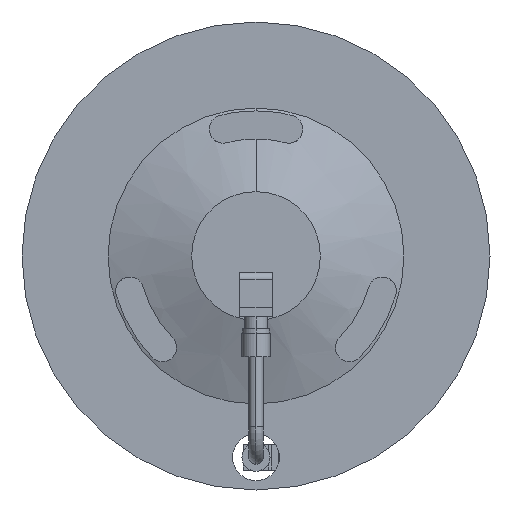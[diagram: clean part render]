
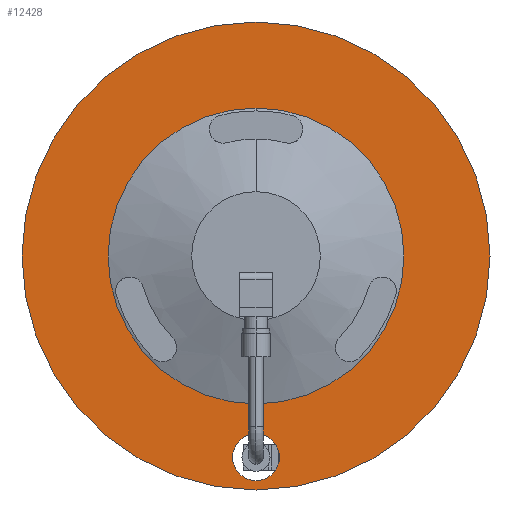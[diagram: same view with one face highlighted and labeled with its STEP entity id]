
A CAD part, front view. The second image highlights one B-rep face of the part: STEP entity #12428.
In plain terms, the highlighted planar face has unit normal (0, -1, 0).
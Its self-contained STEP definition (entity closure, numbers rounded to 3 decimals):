
#25 = EDGE_CURVE ( 'NONE', #8895, #7799, #9634, .T. ) ;
#78 = DIRECTION ( 'NONE',  ( 0., 0., -1. ) ) ;
#267 = EDGE_CURVE ( 'NONE', #7629, #7956, #8526, .T. ) ;
#540 = DIRECTION ( 'NONE',  ( 0., -1., 0. ) ) ;
#837 = CARTESIAN_POINT ( 'NONE',  ( 0., -129.3, -63.217 ) ) ;
#1207 = DIRECTION ( 'NONE',  ( 0., -1., 0. ) ) ;
#1434 = CARTESIAN_POINT ( 'NONE',  ( 0., -129.3, 100. ) ) ;
#1595 = CARTESIAN_POINT ( 'NONE',  ( 0., -129.3, 63.217 ) ) ;
#1658 = DIRECTION ( 'NONE',  ( 0., 0., -1. ) ) ;
#1661 = ORIENTED_EDGE ( 'NONE', *, *, #3147, .F. ) ;
#1710 = CARTESIAN_POINT ( 'NONE',  ( 0., -129.3, 0. ) ) ;
#2179 = CIRCLE ( 'NONE', #13405, 10. ) ;
#2188 = ORIENTED_EDGE ( 'NONE', *, *, #12822, .F. ) ;
#2808 = DIRECTION ( 'NONE',  ( 0., -1., 0. ) ) ;
#3147 = EDGE_CURVE ( 'NONE', #4246, #5835, #11265, .T. ) ;
#3424 = CARTESIAN_POINT ( 'NONE',  ( 0., -129.3, -86. ) ) ;
#3429 = CARTESIAN_POINT ( 'NONE',  ( 0., -129.3, -96. ) ) ;
#3561 = DIRECTION ( 'NONE',  ( 0., -1., 0. ) ) ;
#4154 = ORIENTED_EDGE ( 'NONE', *, *, #6749, .F. ) ;
#4231 = CARTESIAN_POINT ( 'NONE',  ( 0., -129.3, 0. ) ) ;
#4246 = VERTEX_POINT ( 'NONE', #6822 ) ;
#4758 = DIRECTION ( 'NONE',  ( 0., 0., -1. ) ) ;
#5835 = VERTEX_POINT ( 'NONE', #1434 ) ;
#5911 = DIRECTION ( 'NONE',  ( 0., 1., 0. ) ) ;
#6011 = CARTESIAN_POINT ( 'NONE',  ( -100., -129.3, 0. ) ) ;
#6573 = DIRECTION ( 'NONE',  ( 0., 0., -1. ) ) ;
#6749 = EDGE_CURVE ( 'NONE', #7956, #7629, #12832, .T. ) ;
#6796 = CARTESIAN_POINT ( 'NONE',  ( 0., -129.3, -76. ) ) ;
#6822 = CARTESIAN_POINT ( 'NONE',  ( 0., -129.3, -100. ) ) ;
#6936 = FACE_OUTER_BOUND ( 'NONE', #10944, .T. ) ;
#6985 = AXIS2_PLACEMENT_3D ( 'NONE', #10163, #540, #1658 ) ;
#6987 = AXIS2_PLACEMENT_3D ( 'NONE', #1710, #5911, #10218 ) ;
#7629 = VERTEX_POINT ( 'NONE', #837 ) ;
#7799 = VERTEX_POINT ( 'NONE', #3429 ) ;
#7956 = VERTEX_POINT ( 'NONE', #1595 ) ;
#7988 = AXIS2_PLACEMENT_3D ( 'NONE', #4231, #8668, #9505 ) ;
#8055 = AXIS2_PLACEMENT_3D ( 'NONE', #11188, #13383, #11057 ) ;
#8526 = CIRCLE ( 'NONE', #10314, 63.217 ) ;
#8546 = ORIENTED_EDGE ( 'NONE', *, *, #13376, .F. ) ;
#8668 = DIRECTION ( 'NONE',  ( 0., 1., 0. ) ) ;
#8895 = VERTEX_POINT ( 'NONE', #6796 ) ;
#9096 = AXIS2_PLACEMENT_3D ( 'NONE', #6011, #2808, #4758 ) ;
#9505 = DIRECTION ( 'NONE',  ( 0., 0., 1. ) ) ;
#9634 = CIRCLE ( 'NONE', #8055, 10. ) ;
#10163 = CARTESIAN_POINT ( 'NONE',  ( 0., -129.3, 0. ) ) ;
#10218 = DIRECTION ( 'NONE',  ( 0., 0., 1. ) ) ;
#10234 = CIRCLE ( 'NONE', #7988, 100. ) ;
#10314 = AXIS2_PLACEMENT_3D ( 'NONE', #13451, #1207, #78 ) ;
#10643 = EDGE_LOOP ( 'NONE', ( #4154, #11673 ) ) ;
#10944 = EDGE_LOOP ( 'NONE', ( #2188, #1661 ) ) ;
#11038 = ORIENTED_EDGE ( 'NONE', *, *, #25, .F. ) ;
#11057 = DIRECTION ( 'NONE',  ( 0., 0., -1. ) ) ;
#11188 = CARTESIAN_POINT ( 'NONE',  ( 0., -129.3, -86. ) ) ;
#11265 = CIRCLE ( 'NONE', #6987, 100. ) ;
#11290 = FACE_BOUND ( 'NONE', #10643, .T. ) ;
#11673 = ORIENTED_EDGE ( 'NONE', *, *, #267, .F. ) ;
#12211 = PLANE ( 'NONE',  #9096 ) ;
#12428 = ADVANCED_FACE ( 'NONE', ( #13350, #11290, #6936 ), #12211, .T. ) ;
#12822 = EDGE_CURVE ( 'NONE', #5835, #4246, #10234, .T. ) ;
#12832 = CIRCLE ( 'NONE', #6985, 63.217 ) ;
#13350 = FACE_BOUND ( 'NONE', #13558, .T. ) ;
#13376 = EDGE_CURVE ( 'NONE', #7799, #8895, #2179, .T. ) ;
#13383 = DIRECTION ( 'NONE',  ( 0., -1., 0. ) ) ;
#13405 = AXIS2_PLACEMENT_3D ( 'NONE', #3424, #3561, #6573 ) ;
#13451 = CARTESIAN_POINT ( 'NONE',  ( 0., -129.3, 0. ) ) ;
#13558 = EDGE_LOOP ( 'NONE', ( #11038, #8546 ) ) ;
